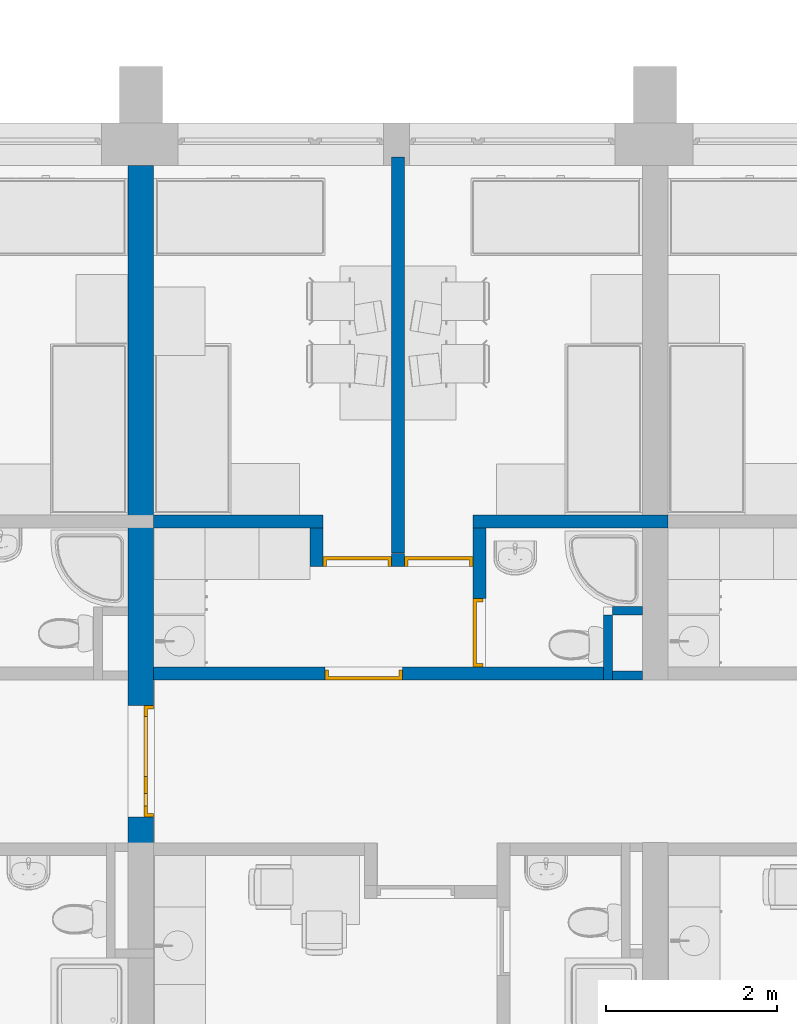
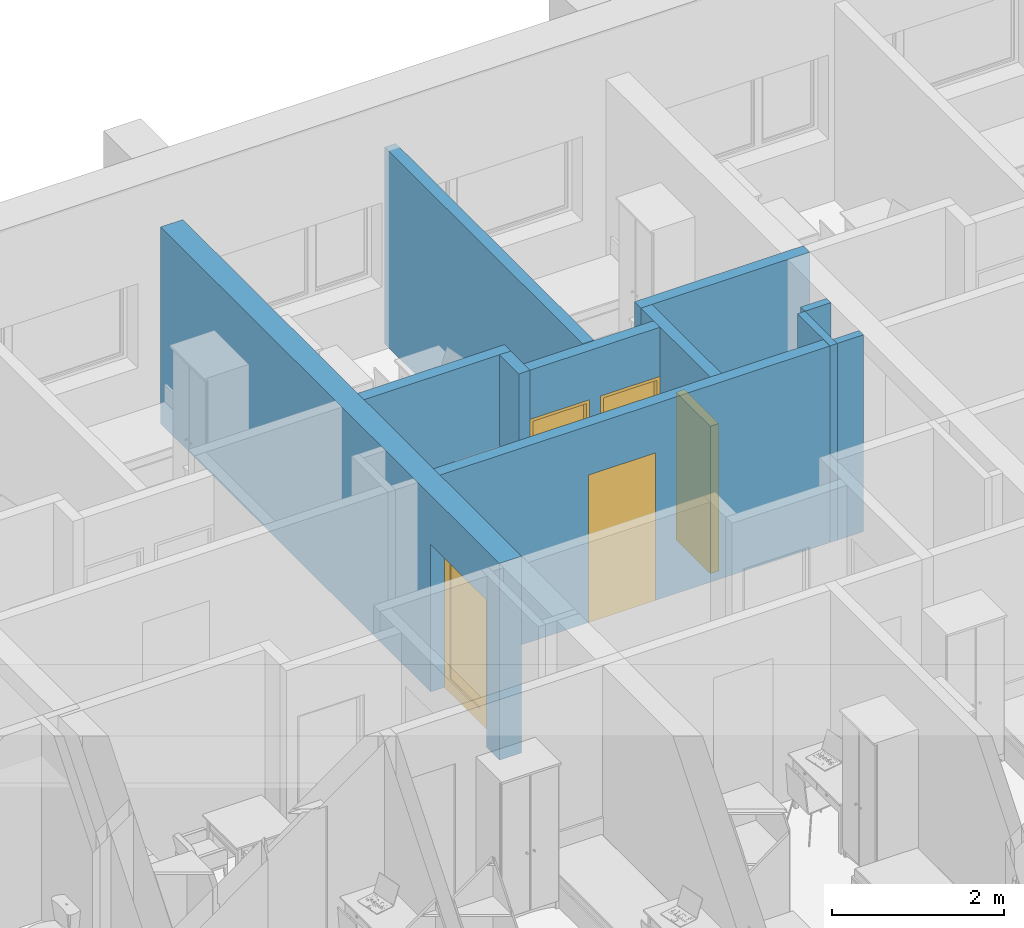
# One storey, part 8 of 152: 11 walls, 5 doors, 5 openings.
"""IFC2X3 building model written with IfcOpenShell, lengths in millimetres."""

from ifc_helpers import new_model, entity, si_unit, converted_unit, money_unit, direction, frame, origin_with_axes, place, context, subcontext, project, spatial, polyline, outline, extrude, open_shell, faceted_brep, surface_model, source, transform, mapped, material, material_list, layer, layer_set, layer_usage, type_object, element, fill, save


model = new_model("IFC2X3")

# Units and contexts
model_context = context("Model", 3, precision=1e-05, world=origin_with_axes(), true_north=direction((0.0, 1.0)))
body_context = subcontext(model_context, "Body", "Model", "MODEL_VIEW")
ifc_project = project(units=[si_unit("LENGTHUNIT", "METRE", prefix="MILLI"), si_unit("AREAUNIT", "SQUARE_METRE"), si_unit("VOLUMEUNIT", "CUBIC_METRE"), converted_unit("PLANEANGLEUNIT", "DEGREE", entity("IfcPlaneAngleMeasure", 0.0174532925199), si_unit("PLANEANGLEUNIT", "RADIAN"), dimensions=[0, 0, 0, 0, 0, 0, 0]), si_unit("SOLIDANGLEUNIT", "STERADIAN"), money_unit("USD"), converted_unit("TIMEUNIT", "Year", entity("IfcTimeMeasure", 31556926.0), si_unit("TIMEUNIT", "SECOND"), dimensions=[0, 0, 0, 0, 0, 0, 0]), si_unit("MASSUNIT", "GRAM"), si_unit("THERMODYNAMICTEMPERATUREUNIT", "DEGREE_CELSIUS"), si_unit("LUMINOUSINTENSITYUNIT", "LUMEN")], contexts=[model_context])

# Site, building, storey
site_placement = place(None, origin_with_axes())
site = spatial("IfcSite", under=ifc_project, at=site_placement, Name="Site", CompositionType="ELEMENT")
building_placement = place(site_placement, origin_with_axes())
building = spatial("IfcBuilding", under=site, at=building_placement, Name="Building", CompositionType="ELEMENT")
storey_placement = place(building_placement, frame((0.0, 0.0, 9500.0), z_axis=(0.0, 0.0, 1.0), x_axis=(1.0, 0.0, 0.0)))
storey = spatial("IfcBuildingStorey", under=building, at=storey_placement, Name="5KORRUS", CompositionType="ELEMENT", Elevation=9500.0)

# Wall
ifc_material_1 = material(Name="UmbKipsplaat")
ifc_layer_1 = layer(ifc_material_1, 13.0, ventilated="UNKNOWN")
ifc_layer_2 = layer(ifc_material_1, 13.0, ventilated="UNKNOWN")
ifc_material_2 = material(Name="SOOJUSTUS MINERAALVILL")
ifc_layer_3 = layer(ifc_material_2, 98.0, ventilated="UNKNOWN")
ifc_layer_4 = layer(ifc_material_1, 13.0, ventilated="UNKNOWN")
ifc_layer_5 = layer(ifc_material_1, 13.0, ventilated="UNKNOWN")
ifc_layer_set_1 = layer_set([ifc_layer_1, ifc_layer_2, ifc_layer_3, ifc_layer_4, ifc_layer_5], Name="kipssein150")
ifc_layer_usage_1 = layer_usage(ifc_layer_set_1, "AXIS2", "POSITIVE", 0.0)
wall_type_1 = type_object("IfcWallType", Name="kipssein150 150", PredefinedType="NOTDEFINED")
wall_1_placement = place(storey_placement, frame((-33215.7435229, -5039.6041088, 0.0), z_axis=(0.0, 0.0, 1.0), x_axis=(0.0, -1.0, 0.0)))
element("IfcWallStandardCase", 1, at=wall_1_placement, inside=storey, type_object=wall_type_1, material=ifc_layer_usage_1, Name="SS1", ObjectType="SS1", context=body_context, shape_type="SweptSolid", body=[
    extrude(outline(polyline([(0.0, 0.0), (4617.29002979, 0.0), (4617.29002979, 150.0), (0.0, 150.0), (0.0, 0.0)])), origin_with_axes(), (0.0, 0.0, 1.0), 2800.0),
])

# Wall, openings, doors
ifc_layer_usage_2 = layer_usage(ifc_layer_set_1, "AXIS2", "POSITIVE", 0.0)
wall_2_placement = place(storey_placement, frame((-34015.7435229, -9815.89413859, 0.0), z_axis=(0.0, 0.0, 1.0), x_axis=(1.0, 0.0, 0.0)))
wall_2 = element("IfcWallStandardCase", 2, at=wall_2_placement, inside=storey, type_object=wall_type_1, material=ifc_layer_usage_2, Name="SS1", ObjectType="SS1", context=body_context, shape_type="SweptSolid", body=[
    extrude(outline(polyline([(0.0, 0.0), (1750.44681959, 0.0), (1750.44681959, 150.0), (0.0, 150.0), (0.0, 0.0)])), origin_with_axes(), (0.0, 0.0, 1.0), 2800.0),
])
opening_1_placement = place(wall_2_placement, frame((1350.45577623, 0.0, 0.0), z_axis=(0.0, 0.0, 1.0), x_axis=(1.0, 0.0, 0.0)))
opening_1 = element("IfcOpeningElement", 3, at=opening_1_placement, cuts=wall_2, Name="SU3-5", context=body_context, shape_type="SweptSolid", body=[
    extrude(outline(polyline([(-400.0, 0.0), (400.0, 0.0), (400.0, 2100.0), (-400.0, 2100.0), (-400.0, 0.0)])), frame((0.0, 150.0, 0.0), z_axis=(0.0, 1.0, 0.0), x_axis=(-1.0, 0.0, 0.0)), (0.0, 0.0, -1.0), 450.0),
])
opening_2_placement = place(wall_2_placement, frame((400.0, 0.0, 0.0), z_axis=(0.0, 0.0, 1.0), x_axis=(1.0, 0.0, 0.0)))
opening_2 = element("IfcOpeningElement", 4, at=opening_2_placement, cuts=wall_2, Name="SU3-4", context=body_context, shape_type="SweptSolid", body=[
    extrude(outline(polyline([(-400.0, 0.0), (400.0, 0.0), (400.0, 2100.0), (-400.0, 2100.0), (-400.0, 0.0)])), frame((0.0, 150.0, 0.0), z_axis=(0.0, -1.0, 0.0), x_axis=(1.0, 0.0, 0.0)), (0.0, 0.0, 1.0), 450.0),
])
ifc_material_3 = material(Name="Background")
ifc_material_list = material_list([ifc_material_3])
door_style_1 = type_object("IfcDoorStyle", Name="Door 19", ConstructionType="NOTDEFINED", OperationType="SINGLE_SWING_LEFT", ParameterTakesPrecedence=False, Sizeable=False)
shared_shape_1 = source(origin_with_axes(), body_context, "Body", "Brep", [
    faceted_brep([(360.0, -75.0, 0.0), (360.0, -150.0, 0.0), (360.0, -150.0, 2060.0), (360.0, -75.0, 2060.0), (372.0, -75.0, 0.0), (372.0, -35.0, 0.0), (400.0, -35.0, 0.0), (400.0, -150.0, 0.0), (400.0, -150.0, 2060.0), (372.0, -75.0, 2060.0), (400.0, -35.0, 2060.0), (372.0, -35.0, 2060.0)], [[[0, 1, 2, 3]], [[4, 5, 6, 7, 1, 0]], [[2, 1, 7, 8]], [[9, 3, 2, 8, 10, 11]], [[9, 4, 0, 3]], [[11, 5, 4, 9]], [[11, 10, 6, 5]], [[7, 6, 10, 8]]]),
    faceted_brep([(-372.0, -75.0, 2060.0), (-372.0, -35.0, 2060.0), (-400.0, -35.0, 2060.0), (-400.0, -150.0, 2060.0), (-360.0, -150.0, 2060.0), (-360.0, -75.0, 2060.0), (-372.0, -75.0, 0.0), (-372.0, -35.0, 0.0), (-400.0, -35.0, 0.0), (-400.0, -150.0, 0.0), (-360.0, -150.0, 0.0), (-360.0, -75.0, 0.0)], [[[0, 1, 2, 3, 4, 5]], [[0, 6, 7, 1]], [[7, 8, 2, 1]], [[3, 2, 8, 9]], [[4, 3, 9, 10]], [[5, 4, 10, 11]], [[5, 11, 6, 0]], [[6, 11, 10, 9, 8, 7]]]),
    faceted_brep([(372.0, -35.0, 2072.0), (-372.0, -35.0, 2072.0), (-372.0, -35.0, 2060.0), (-400.0, -35.0, 2060.0), (-400.0, -35.0, 2100.0), (400.0, -35.0, 2100.0), (400.0, -35.0, 2060.0), (372.0, -35.0, 2060.0), (372.0, -75.0, 2072.0), (-372.0, -75.0, 2072.0), (-372.0, -75.0, 2060.0), (-360.0, -75.0, 2060.0), (-360.0, -150.0, 2060.0), (-400.0, -150.0, 2060.0), (-400.0, -150.0, 2100.0), (400.0, -150.0, 2100.0), (400.0, -150.0, 2060.0), (372.0, -75.0, 2060.0), (360.0, -150.0, 2060.0), (360.0, -75.0, 2060.0)], [[[0, 1, 2, 3, 4, 5, 6, 7]], [[0, 8, 9, 1]], [[1, 9, 10, 2]], [[10, 11, 12, 13, 3, 2]], [[14, 4, 3, 13]], [[15, 5, 4, 14]], [[16, 6, 5, 15]], [[17, 7, 6, 16, 18, 19]], [[7, 17, 8, 0]], [[10, 9, 8, 17, 19, 11]], [[19, 18, 12, 11]], [[13, 12, 18, 16, 15, 14]]]),
    faceted_brep([(-372.0, -35.0, 0.0), (372.0, -35.0, 0.0), (372.0, -75.0, 0.0), (-372.0, -75.0, 0.0), (-372.0, -35.0, 2072.0), (372.0, -35.0, 2072.0), (372.0, -75.0, 2072.0), (-372.0, -75.0, 2072.0)], [[[0, 1, 2, 3]], [[0, 4, 5, 1]], [[1, 5, 6, 2]], [[3, 2, 6, 7]], [[4, 0, 3, 7]], [[5, 4, 7, 6]]]),
])
door_1_placement = place(opening_1_placement, frame((-400.0, 0.0, 0.0), z_axis=(0.0, 0.0, 1.0), x_axis=(1.0, 0.0, 0.0)))
door_1 = element("IfcDoor", 5, at=door_1_placement, inside=storey, type_object=door_style_1, material=ifc_material_list, Name="SU3-5", ObjectType="Toa uks", OverallHeight=2100.0, OverallWidth=800.0, context=body_context, shape_type="MappedRepresentation", body=[
    mapped(shared_shape_1, transform((400.0, 150.0, 0.0))),
])
fill(opening_1, door_1)
door_style_2 = type_object("IfcDoorStyle", Name="Door 19", ConstructionType="NOTDEFINED", OperationType="SINGLE_SWING_RIGHT", ParameterTakesPrecedence=False, Sizeable=False)
shared_shape_2 = source(origin_with_axes(), body_context, "Body", "Brep", [
    faceted_brep([(-360.0, -75.0, 0.0), (-360.0, -75.0, 2060.0), (-360.0, -150.0, 2060.0), (-360.0, -150.0, 0.0), (-372.0, -75.0, 2060.0), (-372.0, -75.0, 0.0), (-372.0, -35.0, 2060.0), (-400.0, -35.0, 2060.0), (-400.0, -150.0, 2060.0), (-400.0, -150.0, 0.0), (-400.0, -35.0, 0.0), (-372.0, -35.0, 0.0)], [[[0, 1, 2, 3]], [[4, 1, 0, 5]], [[4, 6, 7, 8, 2, 1]], [[2, 8, 9, 3]], [[5, 0, 3, 9, 10, 11]], [[6, 4, 5, 11]], [[6, 11, 10, 7]], [[9, 8, 7, 10]]]),
    faceted_brep([(372.0, -75.0, 2060.0), (360.0, -75.0, 2060.0), (360.0, -150.0, 2060.0), (400.0, -150.0, 2060.0), (400.0, -35.0, 2060.0), (372.0, -35.0, 2060.0), (372.0, -75.0, 0.0), (360.0, -75.0, 0.0), (360.0, -150.0, 0.0), (400.0, -150.0, 0.0), (400.0, -35.0, 0.0), (372.0, -35.0, 0.0)], [[[0, 1, 2, 3, 4, 5]], [[1, 0, 6, 7]], [[1, 7, 8, 2]], [[2, 8, 9, 3]], [[3, 9, 10, 4]], [[11, 5, 4, 10]], [[0, 5, 11, 6]], [[6, 11, 10, 9, 8, 7]]]),
    faceted_brep([(-372.0, -35.0, 2072.0), (-372.0, -35.0, 2060.0), (-400.0, -35.0, 2060.0), (-400.0, -35.0, 2100.0), (400.0, -35.0, 2100.0), (400.0, -35.0, 2060.0), (372.0, -35.0, 2060.0), (372.0, -35.0, 2072.0), (-372.0, -75.0, 2072.0), (-372.0, -75.0, 2060.0), (-360.0, -75.0, 2060.0), (-360.0, -150.0, 2060.0), (-400.0, -150.0, 2060.0), (-400.0, -150.0, 2100.0), (400.0, -150.0, 2100.0), (400.0, -150.0, 2060.0), (372.0, -75.0, 2060.0), (360.0, -150.0, 2060.0), (360.0, -75.0, 2060.0), (372.0, -75.0, 2072.0)], [[[0, 1, 2, 3, 4, 5, 6, 7]], [[1, 0, 8, 9]], [[9, 10, 11, 12, 2, 1]], [[12, 13, 3, 2]], [[13, 14, 4, 3]], [[14, 15, 5, 4]], [[16, 6, 5, 15, 17, 18]], [[7, 6, 16, 19]], [[0, 7, 19, 8]], [[16, 18, 10, 9, 8, 19]], [[10, 18, 17, 11]], [[15, 14, 13, 12, 11, 17]]]),
    faceted_brep([(372.0, -35.0, 0.0), (372.0, -75.0, 0.0), (-372.0, -75.0, 0.0), (-372.0, -35.0, 0.0), (372.0, -35.0, 2072.0), (372.0, -75.0, 2072.0), (-372.0, -75.0, 2072.0), (-372.0, -35.0, 2072.0)], [[[0, 1, 2, 3]], [[4, 5, 1, 0]], [[1, 5, 6, 2]], [[3, 2, 6, 7]], [[0, 3, 7, 4]], [[7, 6, 5, 4]]]),
])
door_2_placement = place(opening_2_placement, frame((-400.0, 0.0, 0.0), z_axis=(0.0, 0.0, 1.0), x_axis=(1.0, 0.0, 0.0)))
door_2 = element("IfcDoor", 6, at=door_2_placement, inside=storey, type_object=door_style_2, material=ifc_material_list, Name="SU3-4", ObjectType="Toa uks", OverallHeight=2100.0, OverallWidth=800.0, context=body_context, shape_type="MappedRepresentation", body=[
    mapped(shared_shape_2, transform((400.0, 150.0, 0.0))),
])
fill(opening_2, door_2)

# Wall, opening, door
ifc_layer_usage_3 = layer_usage(ifc_layer_set_1, "AXIS2", "POSITIVE", 0.0)
wall_3_placement = place(storey_placement, frame((-35990.2967033, -11136.6041088, 0.0), z_axis=(0.0, 0.0, 1.0), x_axis=(1.0, 0.0, 0.0)))
wall_3 = element("IfcWallStandardCase", 7, at=wall_3_placement, inside=storey, type_object=wall_type_1, material=ifc_layer_usage_3, Name="SS1", ObjectType="SS1", context=body_context, shape_type="SweptSolid", body=[
    extrude(outline(polyline([(0.0, 0.0), (5247.24735947, 0.0), (5247.24735947, 150.0), (0.0, 150.0), (0.0, 0.0)])), origin_with_axes(), (0.0, 0.0, 1.0), 2800.0),
])
opening_3_placement = place(wall_3_placement, frame((2449.55318041, 0.0, 0.0), z_axis=(0.0, 0.0, 1.0), x_axis=(1.0, 0.0, 0.0)))
opening_3 = element("IfcOpeningElement", 8, at=opening_3_placement, cuts=wall_3, Name="SU2-6", context=body_context, shape_type="SweptSolid", body=[
    extrude(outline(polyline([(-450.0, -2100.0), (450.0, -2100.0), (450.0, 0.0), (-450.0, 0.0), (-450.0, -2100.0)])), frame((0.0, 150.0, 0.0), z_axis=(0.0, 1.0, 0.0), x_axis=(1.0, 0.0, 0.0)), (0.0, 0.0, -1.0), 450.0),
])
door_style_3 = type_object("IfcDoorStyle", Name="Door 19", ConstructionType="NOTDEFINED", OperationType="SINGLE_SWING_LEFT", ParameterTakesPrecedence=False, Sizeable=False)
shared_shape_3 = source(origin_with_axes(), body_context, "Body", "Brep", [
    faceted_brep([(410.0, -40.0, 0.0), (410.0, -115.0, 0.0), (410.0, -115.0, 2060.0), (410.0, -40.0, 2060.0), (422.0, -40.0, 0.0), (422.0, 0.0, 0.0), (450.0, 0.0, 0.0), (450.0, -115.0, 0.0), (450.0, -115.0, 2060.0), (422.0, -40.0, 2060.0), (450.0, 0.0, 2060.0), (422.0, 0.0, 2060.0)], [[[0, 1, 2, 3]], [[4, 5, 6, 7, 1, 0]], [[2, 1, 7, 8]], [[9, 3, 2, 8, 10, 11]], [[9, 4, 0, 3]], [[11, 5, 4, 9]], [[11, 10, 6, 5]], [[7, 6, 10, 8]]]),
    faceted_brep([(-422.0, -40.0, 2060.0), (-422.0, 0.0, 2060.0), (-450.0, 0.0, 2060.0), (-450.0, -115.0, 2060.0), (-410.0, -115.0, 2060.0), (-410.0, -40.0, 2060.0), (-422.0, -40.0, 0.0), (-422.0, 0.0, 0.0), (-450.0, 0.0, 0.0), (-450.0, -115.0, 0.0), (-410.0, -115.0, 0.0), (-410.0, -40.0, 0.0)], [[[0, 1, 2, 3, 4, 5]], [[0, 6, 7, 1]], [[7, 8, 2, 1]], [[3, 2, 8, 9]], [[4, 3, 9, 10]], [[5, 4, 10, 11]], [[5, 11, 6, 0]], [[6, 11, 10, 9, 8, 7]]]),
    faceted_brep([(422.0, 0.0, 2072.0), (-422.0, 0.0, 2072.0), (-422.0, 0.0, 2060.0), (-450.0, 0.0, 2060.0), (-450.0, 0.0, 2100.0), (450.0, 0.0, 2100.0), (450.0, 0.0, 2060.0), (422.0, 0.0, 2060.0), (422.0, -40.0, 2072.0), (-422.0, -40.0, 2072.0), (-422.0, -40.0, 2060.0), (-410.0, -40.0, 2060.0), (-410.0, -115.0, 2060.0), (-450.0, -115.0, 2060.0), (-450.0, -115.0, 2100.0), (450.0, -115.0, 2100.0), (450.0, -115.0, 2060.0), (422.0, -40.0, 2060.0), (410.0, -115.0, 2060.0), (410.0, -40.0, 2060.0)], [[[0, 1, 2, 3, 4, 5, 6, 7]], [[0, 8, 9, 1]], [[1, 9, 10, 2]], [[10, 11, 12, 13, 3, 2]], [[14, 4, 3, 13]], [[15, 5, 4, 14]], [[16, 6, 5, 15]], [[17, 7, 6, 16, 18, 19]], [[7, 17, 8, 0]], [[10, 9, 8, 17, 19, 11]], [[19, 18, 12, 11]], [[13, 12, 18, 16, 15, 14]]]),
    faceted_brep([(-422.0, 0.0, 0.0), (422.0, 0.0, 0.0), (422.0, -40.0, 0.0), (-422.0, -40.0, 0.0), (-422.0, 0.0, 2072.0), (422.0, 0.0, 2072.0), (422.0, -40.0, 2072.0), (-422.0, -40.0, 2072.0)], [[[0, 1, 2, 3]], [[0, 4, 5, 1]], [[1, 5, 6, 2]], [[3, 2, 6, 7]], [[4, 0, 3, 7]], [[5, 4, 7, 6]]]),
])
door_3_placement = place(opening_3_placement, frame((450.0, 0.0, 0.0), z_axis=(0.0, 0.0, 1.0), x_axis=(-1.0, 0.0, 0.0)))
door_3 = element("IfcDoor", 9, at=door_3_placement, inside=storey, type_object=door_style_3, material=ifc_material_list, Name="SU2-6", ObjectType="Korteri välisuks", OverallHeight=2100.0, OverallWidth=900.0, context=body_context, shape_type="MappedRepresentation", body=[
    mapped(shared_shape_3, transform((450.0, 0.0, 0.0))),
])
fill(opening_3, door_3)

ifc_layer_usage_4 = layer_usage(ifc_layer_set_1, "AXIS2", "POSITIVE", 0.0)
wall_4_placement = place(storey_placement, frame((-32265.2967033, -9367.37850445, 0.0), z_axis=(0.0, 0.0, 1.0), x_axis=(0.0, -1.0, 0.0)))
wall_4 = element("IfcWallStandardCase", 10, at=wall_4_placement, inside=storey, type_object=wall_type_1, material=ifc_layer_usage_4, Name="SS1", ObjectType="SS1", context=body_context, shape_type="SweptSolid", body=[
    extrude(outline(polyline([(0.0, 0.0), (1619.22560435, 0.0), (1619.22560435, 150.0), (0.0, 150.0), (0.0, 0.0)])), origin_with_axes(), (0.0, 0.0, 1.0), 2800.0),
])
opening_4_placement = place(wall_4_placement, frame((1219.22560435, 0.0, 0.0), z_axis=(0.0, 0.0, 1.0), x_axis=(1.0, 0.0, 0.0)))
opening_4 = element("IfcOpeningElement", 11, at=opening_4_placement, cuts=wall_4, Name="SU3-3", context=body_context, shape_type="SweptSolid", body=[
    extrude(outline(polyline([(-400.0, -2100.0), (400.0, -2100.0), (400.0, 0.0), (-400.0, 0.0), (-400.0, -2100.0)])), frame((0.0, 150.0, 0.0), z_axis=(0.0, 1.0, 0.0), x_axis=(1.0, 0.0, 0.0)), (0.0, 0.0, -1.0), 450.0),
])
shared_shape_4 = source(origin_with_axes(), body_context, "Body", "Brep", [
    faceted_brep([(360.0, -40.0, 0.0), (360.0, -115.0, 0.0), (360.0, -115.0, 2060.0), (360.0, -40.0, 2060.0), (372.0, -40.0, 0.0), (372.0, 0.0, 0.0), (400.0, 0.0, 0.0), (400.0, -115.0, 0.0), (400.0, -115.0, 2060.0), (372.0, -40.0, 2060.0), (400.0, 0.0, 2060.0), (372.0, 0.0, 2060.0)], [[[0, 1, 2, 3]], [[4, 5, 6, 7, 1, 0]], [[2, 1, 7, 8]], [[9, 3, 2, 8, 10, 11]], [[9, 4, 0, 3]], [[11, 5, 4, 9]], [[11, 10, 6, 5]], [[7, 6, 10, 8]]]),
    faceted_brep([(-372.0, -40.0, 2060.0), (-372.0, 0.0, 2060.0), (-400.0, 0.0, 2060.0), (-400.0, -115.0, 2060.0), (-360.0, -115.0, 2060.0), (-360.0, -40.0, 2060.0), (-372.0, -40.0, 0.0), (-372.0, 0.0, 0.0), (-400.0, 0.0, 0.0), (-400.0, -115.0, 0.0), (-360.0, -115.0, 0.0), (-360.0, -40.0, 0.0)], [[[0, 1, 2, 3, 4, 5]], [[0, 6, 7, 1]], [[7, 8, 2, 1]], [[3, 2, 8, 9]], [[4, 3, 9, 10]], [[5, 4, 10, 11]], [[5, 11, 6, 0]], [[6, 11, 10, 9, 8, 7]]]),
    faceted_brep([(372.0, 0.0, 2072.0), (-372.0, 0.0, 2072.0), (-372.0, 0.0, 2060.0), (-400.0, 0.0, 2060.0), (-400.0, 0.0, 2100.0), (400.0, 0.0, 2100.0), (400.0, 0.0, 2060.0), (372.0, 0.0, 2060.0), (372.0, -40.0, 2072.0), (-372.0, -40.0, 2072.0), (-372.0, -40.0, 2060.0), (-360.0, -40.0, 2060.0), (-360.0, -115.0, 2060.0), (-400.0, -115.0, 2060.0), (-400.0, -115.0, 2100.0), (400.0, -115.0, 2100.0), (400.0, -115.0, 2060.0), (372.0, -40.0, 2060.0), (360.0, -115.0, 2060.0), (360.0, -40.0, 2060.0)], [[[0, 1, 2, 3, 4, 5, 6, 7]], [[0, 8, 9, 1]], [[1, 9, 10, 2]], [[10, 11, 12, 13, 3, 2]], [[14, 4, 3, 13]], [[15, 5, 4, 14]], [[16, 6, 5, 15]], [[17, 7, 6, 16, 18, 19]], [[7, 17, 8, 0]], [[10, 9, 8, 17, 19, 11]], [[19, 18, 12, 11]], [[13, 12, 18, 16, 15, 14]]]),
    faceted_brep([(-372.0, 0.0, 0.0), (372.0, 0.0, 0.0), (372.0, -40.0, 0.0), (-372.0, -40.0, 0.0), (-372.0, 0.0, 2072.0), (372.0, 0.0, 2072.0), (372.0, -40.0, 2072.0), (-372.0, -40.0, 2072.0)], [[[0, 1, 2, 3]], [[0, 4, 5, 1]], [[1, 5, 6, 2]], [[3, 2, 6, 7]], [[4, 0, 3, 7]], [[5, 4, 7, 6]]]),
])
door_4_placement = place(opening_4_placement, frame((400.0, 0.0, 0.0), z_axis=(0.0, 0.0, 1.0), x_axis=(-1.0, 0.0, 0.0)))
door_4 = element("IfcDoor", 12, at=door_4_placement, inside=storey, type_object=door_style_3, material=ifc_material_list, Name="SU3-3", ObjectType="WC-uks", OverallHeight=2100.0, OverallWidth=800.0, context=body_context, shape_type="MappedRepresentation", body=[
    mapped(shared_shape_4, transform((400.0, 0.0, 0.0))),
])
fill(opening_4, door_4)

# Walls
ifc_layer_usage_5 = layer_usage(ifc_layer_set_1, "AXIS2", "POSITIVE", -150.0)
wall_5_placement = place(storey_placement, frame((-34015.7435229, -9366.37850445, 0.0), z_axis=(0.0, 0.0, 1.0), x_axis=(-1.0, 0.0, 0.0)))
element("IfcWallStandardCase", 13, at=wall_5_placement, inside=storey, type_object=wall_type_1, material=ifc_layer_usage_5, Name="SS1", ObjectType="SS1", context=body_context, shape_type="SweptSolid", body=[
    extrude(outline(polyline([(0.0, -150.0), (1974.55318041, -150.0), (1974.55318041, 0.0), (0.0, 0.0), (0.0, -150.0)])), origin_with_axes(), (0.0, 0.0, 1.0), 2800.0),
])
ifc_layer_usage_6 = layer_usage(ifc_layer_set_1, "AXIS2", "POSITIVE", 0.0)
wall_6_placement = place(storey_placement, frame((-32265.2967033, -9367.37850445, 0.0), z_axis=(0.0, 0.0, 1.0), x_axis=(1.0, 0.0, 0.0)))
element("IfcWallStandardCase", 14, at=wall_6_placement, inside=storey, type_object=wall_type_1, material=ifc_layer_usage_6, Name="SS1", ObjectType="SS1", context=body_context, shape_type="SweptSolid", body=[
    extrude(outline(polyline([(0.0, 0.0), (2275.0, 0.0), (2275.0, 150.0), (0.0, 150.0), (0.0, 0.0)])), origin_with_axes(), (0.0, 0.0, 1.0), 2800.0),
])
ifc_layer_usage_7 = layer_usage(ifc_layer_set_1, "AXIS2", "POSITIVE", -150.0)
wall_7_placement = place(storey_placement, frame((-34015.7435229, -9366.37850445, 0.0), z_axis=(0.0, 0.0, 1.0), x_axis=(0.0, -1.0, 0.0)))
element("IfcWallStandardCase", 15, at=wall_7_placement, inside=storey, type_object=wall_type_1, material=ifc_layer_usage_7, Name="SS1", ObjectType="SS1", context=body_context, shape_type="SweptSolid", body=[
    extrude(outline(polyline([(0.0, -150.0), (449.515634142, -150.0), (449.515634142, 0.0), (0.0, 0.0), (0.0, -150.0)])), origin_with_axes(), (0.0, 0.0, 1.0), 2800.0),
])

# Wall, opening, door
ifc_material_4 = material(Name="Olemasolevad seinad tellis, uus viimistlus")
ifc_layer_6 = layer(ifc_material_4, 300.0, ventilated="UNKNOWN")
ifc_layer_set_2 = layer_set([ifc_layer_6], Name="Olemasolevad seinad tellis, uus viimistlus  300")
ifc_layer_usage_8 = layer_usage(ifc_layer_set_2, "AXIS2", "POSITIVE", 0.0)
wall_type_2 = type_object("IfcWallType", Name="Olemasolevad seinad tellis, uus viimistlus  300", PredefinedType="NOTDEFINED")
wall_8_placement = place(storey_placement, frame((-35990.2967033, -13039.3705726, 0.0), z_axis=(0.0, 0.0, 1.0), x_axis=(0.0, 1.0, 0.0)))
wall_8 = element("IfcWallStandardCase", 16, at=wall_8_placement, inside=storey, type_object=wall_type_2, material=ifc_layer_usage_8, Name="KS1", ObjectType="KS1", context=body_context, shape_type="SweptSolid", body=[
    extrude(outline(polyline([(0.0, 0.0), (7899.7664638, 0.0), (7899.7664638, 300.0), (0.0, 300.0), (0.0, 0.0)])), origin_with_axes(), (0.0, 0.0, 1.0), 2800.0),
])
opening_5_placement = place(wall_8_placement, frame((952.766463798, 0.0, 0.0), z_axis=(0.0, 0.0, 1.0), x_axis=(1.0, 0.0, 0.0)))
opening_5 = element("IfcOpeningElement", 17, at=opening_5_placement, cuts=wall_8, Name="SU4-22", context=body_context, shape_type="SweptSolid", body=[
    extrude(outline(polyline([(-650.0, 0.0), (650.0, 0.0), (650.0, 2100.0), (-650.0, 2100.0), (-650.0, 0.0)])), frame((0.0, 300.0, 0.0), z_axis=(0.0, -1.0, 0.0), x_axis=(1.0, 0.0, 0.0)), (0.0, 0.0, 1.0), 900.0),
])
door_style_4 = type_object("IfcDoorStyle", Name="Double Door Asymmetric 19", ConstructionType="NOTDEFINED", OperationType="DOUBLE_DOOR_SINGLE_SWING", ParameterTakesPrecedence=False, Sizeable=False)
shared_shape_5 = source(origin_with_axes(), body_context, "Body", "SurfaceModel", [
    faceted_brep([(-610.0, -225.0, 0.0), (-610.0, -225.0, 2060.0), (-610.0, -300.0, 2060.0), (-610.0, -300.0, 0.0), (-622.0, -225.0, 2060.0), (-622.0, -225.0, 0.0), (-622.0, -185.0, 2060.0), (-650.0, -185.0, 2060.0), (-650.0, -300.0, 2060.0), (-650.0, -300.0, 0.0), (-650.0, -185.0, 0.0), (-622.0, -185.0, 0.0)], [[[0, 1, 2, 3]], [[4, 1, 0, 5]], [[4, 6, 7, 8, 2, 1]], [[2, 8, 9, 3]], [[5, 0, 3, 9, 10, 11]], [[6, 4, 5, 11]], [[6, 11, 10, 7]], [[9, 8, 7, 10]]]),
    faceted_brep([(622.0, -225.0, 2060.0), (610.0, -225.0, 2060.0), (610.0, -300.0, 2060.0), (650.0, -300.0, 2060.0), (650.0, -185.0, 2060.0), (622.0, -185.0, 2060.0), (622.0, -225.0, 0.0), (610.0, -225.0, 0.0), (610.0, -300.0, 0.0), (650.0, -300.0, 0.0), (650.0, -185.0, 0.0), (622.0, -185.0, 0.0)], [[[0, 1, 2, 3, 4, 5]], [[1, 0, 6, 7]], [[1, 7, 8, 2]], [[2, 8, 9, 3]], [[3, 9, 10, 4]], [[11, 5, 4, 10]], [[0, 5, 11, 6]], [[6, 11, 10, 9, 8, 7]]]),
    faceted_brep([(-622.0, -185.0, 2072.0), (-622.0, -185.0, 2060.0), (-650.0, -185.0, 2060.0), (-650.0, -185.0, 2100.0), (650.0, -185.0, 2100.0), (650.0, -185.0, 2060.0), (622.0, -185.0, 2060.0), (622.0, -185.0, 2072.0), (-622.0, -225.0, 2072.0), (-622.0, -225.0, 2060.0), (-610.0, -225.0, 2060.0), (-610.0, -300.0, 2060.0), (-650.0, -300.0, 2060.0), (-650.0, -300.0, 2100.0), (650.0, -300.0, 2100.0), (650.0, -300.0, 2060.0), (622.0, -225.0, 2060.0), (610.0, -300.0, 2060.0), (610.0, -225.0, 2060.0), (622.0, -225.0, 2072.0)], [[[0, 1, 2, 3, 4, 5, 6, 7]], [[1, 0, 8, 9]], [[9, 10, 11, 12, 2, 1]], [[12, 13, 3, 2]], [[13, 14, 4, 3]], [[14, 15, 5, 4]], [[16, 6, 5, 15, 17, 18]], [[7, 6, 16, 19]], [[0, 7, 19, 8]], [[16, 18, 10, 9, 8, 19]], [[10, 18, 17, 11]], [[15, 14, 13, 12, 11, 17]]]),
    faceted_brep([(622.0, -185.0, 200.0), (622.0, -225.0, 200.0), (522.0, -225.0, 200.0), (522.0, -185.0, 200.0), (622.0, -185.0, 1972.0), (622.0, -225.0, 1972.0), (522.0, -225.0, 1972.0), (522.0, -185.0, 1972.0)], [[[0, 1, 2, 3]], [[4, 5, 1, 0]], [[1, 5, 6, 2]], [[3, 2, 6, 7]], [[0, 3, 7, 4]], [[7, 6, 5, 4]]]),
    faceted_brep([(-278.0, -185.0, 200.0), (-278.0, -225.0, 200.0), (-278.0, -225.0, 1972.0), (-278.0, -185.0, 1972.0), (-178.0, -185.0, 200.0), (-178.0, -225.0, 200.0), (-178.0, -225.0, 1972.0), (-178.0, -185.0, 1972.0)], [[[0, 1, 2, 3]], [[4, 5, 1, 0]], [[1, 5, 6, 2]], [[3, 2, 6, 7]], [[0, 3, 7, 4]], [[7, 6, 5, 4]]]),
    faceted_brep([(622.0, -185.0, 0.0), (622.0, -225.0, 0.0), (-278.0, -225.0, 0.0), (-278.0, -185.0, 0.0), (622.0, -185.0, 200.0), (622.0, -225.0, 200.0), (522.0, -225.0, 200.0), (-178.0, -225.0, 200.0), (-278.0, -225.0, 200.0), (-278.0, -185.0, 200.0), (-178.0, -185.0, 200.0), (522.0, -185.0, 200.0)], [[[0, 1, 2, 3]], [[4, 5, 1, 0]], [[1, 5, 6, 7, 8, 2]], [[3, 2, 8, 9]], [[0, 3, 9, 10, 11, 4]], [[11, 6, 5, 4]], [[10, 7, 6, 11]], [[9, 8, 7, 10]]]),
    faceted_brep([(622.0, -185.0, 2072.0), (622.0, -225.0, 2072.0), (622.0, -225.0, 1972.0), (622.0, -185.0, 1972.0), (-278.0, -185.0, 2072.0), (-278.0, -225.0, 2072.0), (-278.0, -225.0, 1972.0), (-178.0, -225.0, 1972.0), (522.0, -225.0, 1972.0), (522.0, -185.0, 1972.0), (-178.0, -185.0, 1972.0), (-278.0, -185.0, 1972.0)], [[[0, 1, 2, 3]], [[4, 5, 1, 0]], [[1, 5, 6, 7, 8, 2]], [[3, 2, 8, 9]], [[0, 3, 9, 10, 11, 4]], [[11, 6, 5, 4]], [[10, 7, 6, 11]], [[9, 8, 7, 10]]]),
    surface_model("IfcShellBasedSurfaceModel", [(522.0, -199.0, 200.0), (-178.0, -199.0, 200.0), (-178.0, -199.0, 1972.0), (522.0, -199.0, 1972.0)], [open_shell([[[0, 1, 2, 3]]])]),
    surface_model("IfcShellBasedSurfaceModel", [(522.0, -211.0, 200.0), (522.0, -211.0, 1972.0), (-178.0, -211.0, 1972.0), (-178.0, -211.0, 200.0)], [open_shell([[[0, 1, 2, 3]]])]),
    faceted_brep([(-622.0, -185.0, 200.0), (-522.0, -185.0, 200.0), (-522.0, -225.0, 200.0), (-622.0, -225.0, 200.0), (-622.0, -185.0, 1972.0), (-522.0, -185.0, 1972.0), (-522.0, -225.0, 1972.0), (-622.0, -225.0, 1972.0)], [[[0, 1, 2, 3]], [[0, 4, 5, 1]], [[1, 5, 6, 2]], [[3, 2, 6, 7]], [[4, 0, 3, 7]], [[5, 4, 7, 6]]]),
    faceted_brep([(-278.0, -185.0, 200.0), (-278.0, -185.0, 1972.0), (-278.0, -225.0, 1972.0), (-278.0, -225.0, 200.0), (-378.0, -185.0, 200.0), (-378.0, -185.0, 1972.0), (-378.0, -225.0, 1972.0), (-378.0, -225.0, 200.0)], [[[0, 1, 2, 3]], [[0, 4, 5, 1]], [[1, 5, 6, 2]], [[3, 2, 6, 7]], [[4, 0, 3, 7]], [[5, 4, 7, 6]]]),
    faceted_brep([(-622.0, -185.0, 0.0), (-278.0, -185.0, 0.0), (-278.0, -225.0, 0.0), (-622.0, -225.0, 0.0), (-622.0, -185.0, 200.0), (-522.0, -185.0, 200.0), (-378.0, -185.0, 200.0), (-278.0, -185.0, 200.0), (-278.0, -225.0, 200.0), (-378.0, -225.0, 200.0), (-522.0, -225.0, 200.0), (-622.0, -225.0, 200.0)], [[[0, 1, 2, 3]], [[0, 4, 5, 6, 7, 1]], [[1, 7, 8, 2]], [[3, 2, 8, 9, 10, 11]], [[4, 0, 3, 11]], [[5, 4, 11, 10]], [[6, 5, 10, 9]], [[7, 6, 9, 8]]]),
    faceted_brep([(-622.0, -185.0, 2072.0), (-622.0, -185.0, 1972.0), (-622.0, -225.0, 1972.0), (-622.0, -225.0, 2072.0), (-278.0, -185.0, 2072.0), (-278.0, -185.0, 1972.0), (-378.0, -185.0, 1972.0), (-522.0, -185.0, 1972.0), (-522.0, -225.0, 1972.0), (-378.0, -225.0, 1972.0), (-278.0, -225.0, 1972.0), (-278.0, -225.0, 2072.0)], [[[0, 1, 2, 3]], [[0, 4, 5, 6, 7, 1]], [[1, 7, 8, 2]], [[3, 2, 8, 9, 10, 11]], [[4, 0, 3, 11]], [[5, 4, 11, 10]], [[6, 5, 10, 9]], [[7, 6, 9, 8]]]),
    surface_model("IfcShellBasedSurfaceModel", [(-522.0, -199.0, 200.0), (-522.0, -199.0, 1972.0), (-378.0, -199.0, 1972.0), (-378.0, -199.0, 200.0)], [open_shell([[[0, 1, 2, 3]]])]),
    surface_model("IfcShellBasedSurfaceModel", [(-522.0, -211.0, 200.0), (-378.0, -211.0, 200.0), (-378.0, -211.0, 1972.0), (-522.0, -211.0, 1972.0)], [open_shell([[[0, 1, 2, 3]]])]),
])
door_5_placement = place(opening_5_placement, frame((-650.0, 0.0, 0.0), z_axis=(0.0, 0.0, 1.0), x_axis=(1.0, 0.0, 0.0)))
door_5 = element("IfcDoor", 18, at=door_5_placement, inside=storey, type_object=door_style_4, material=ifc_material_list, Name="SU4-22", ObjectType="Trepkoja uks", OverallHeight=2100.0, OverallWidth=1300.0, context=body_context, shape_type="MappedRepresentation", body=[
    mapped(shared_shape_5, transform((650.0, 300.0, 0.0))),
])
fill(opening_5, door_5)

# Walls
ifc_material_5 = material(Name="krohv")
ifc_layer_7 = layer(ifc_material_5, 2.0, ventilated="UNKNOWN")
ifc_layer_8 = layer(ifc_material_5, 10.0, ventilated="UNKNOWN")
ifc_material_6 = material(Name="Kergplokk")
ifc_layer_9 = layer(ifc_material_6, 76.0, ventilated="UNKNOWN")
ifc_layer_10 = layer(ifc_material_5, 10.0, ventilated="UNKNOWN")
ifc_layer_11 = layer(ifc_material_5, 2.0, ventilated="UNKNOWN")
ifc_layer_set_3 = layer_set([ifc_layer_7, ifc_layer_8, ifc_layer_9, ifc_layer_10, ifc_layer_11], Name="Kergplokk Bauroc 100")
ifc_layer_usage_9 = layer_usage(ifc_layer_set_3, "AXIS2", "POSITIVE", 0.0)
wall_type_3 = type_object("IfcWallType", Name="Kergplokk Bauroc 100 100", PredefinedType="NOTDEFINED")
wall_9_placement = place(storey_placement, frame((-30640.2967033, -10380.1041267, 0.0), z_axis=(0.0, 0.0, 1.0), x_axis=(1.0, 0.0, 0.0)))
element("IfcWallStandardCase", 19, at=wall_9_placement, inside=storey, type_object=wall_type_3, material=ifc_layer_usage_9, Name="SS2", ObjectType="SS2", context=body_context, shape_type="SweptSolid", body=[
    extrude(outline(polyline([(0.0, 0.0), (350.0, 0.0), (350.0, 100.0), (0.0, 100.0), (0.0, 0.0)])), origin_with_axes(), (0.0, 0.0, 1.0), 2800.0),
])
ifc_layer_usage_10 = layer_usage(ifc_layer_set_3, "AXIS2", "POSITIVE", -100.0)
wall_10_placement = place(storey_placement, frame((-30640.2967033, -10380.1041267, 0.0), z_axis=(0.0, 0.0, 1.0), x_axis=(0.0, -1.0, 0.0)))
element("IfcWallStandardCase", 20, at=wall_10_placement, inside=storey, type_object=wall_type_3, material=ifc_layer_usage_10, Name="SS2", ObjectType="SS2", context=body_context, shape_type="SweptSolid", body=[
    extrude(outline(polyline([(0.0, -100.0), (756.499982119, -100.0), (756.499982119, 0.0), (0.0, 0.0), (0.0, -100.0)])), origin_with_axes(), (0.0, 0.0, 1.0), 2800.0),
])
ifc_layer_usage_11 = layer_usage(ifc_layer_set_3, "AXIS2", "POSITIVE", 0.0)
wall_11_placement = place(storey_placement, frame((-30640.2967033, -11136.6041088, 0.0), z_axis=(0.0, 0.0, 1.0), x_axis=(1.0, 0.0, 0.0)))
element("IfcWallStandardCase", 21, at=wall_11_placement, inside=storey, type_object=wall_type_3, material=ifc_layer_usage_11, Name="SS2", ObjectType="SS2", context=body_context, shape_type="SweptSolid", body=[
    extrude(outline(polyline([(0.0, 0.0), (350.0, 0.0), (350.0, 100.0), (0.0, 100.0), (0.0, 0.0)])), origin_with_axes(), (0.0, 0.0, 1.0), 2800.0),
])

save(model, "model.ifc")
